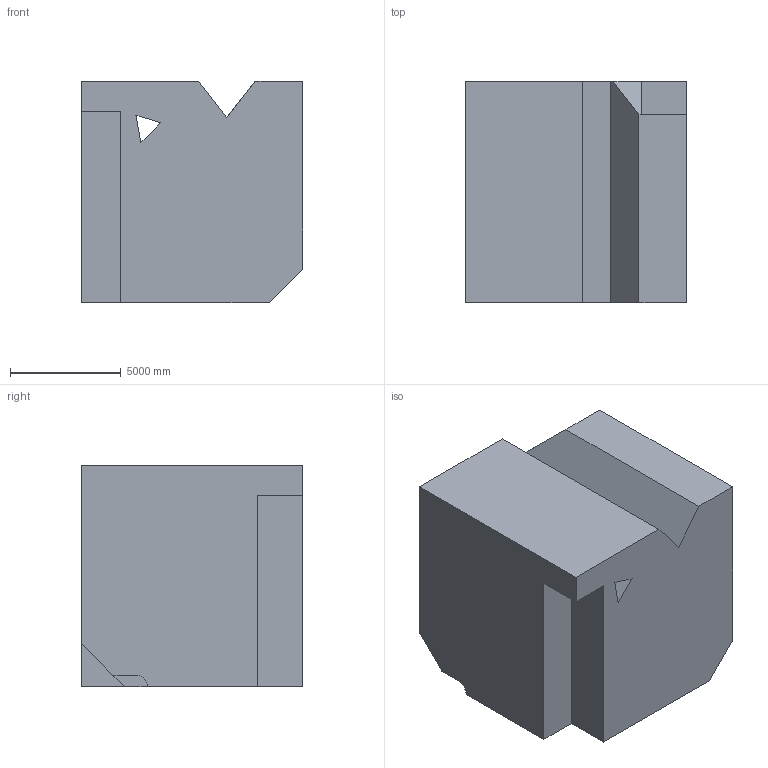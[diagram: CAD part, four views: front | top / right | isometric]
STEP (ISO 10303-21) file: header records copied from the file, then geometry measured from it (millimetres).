
FILE_DESCRIPTION (( 'STEP AP203' ), '1' );
FILE_NAME ('396.STEP', '2022-09-07T13:32:31', ( 'user' ), ( '' ), 'SwSTEP 2.0', 'SolidWorks 2021', '' );
FILE_SCHEMA (( 'CONFIG_CONTROL_DESIGN' ));
Length unit declared in the file: centimetre
Products named in the file (1): 396
Bounding box: 10000 x 10000 x 10000 mm (x, y, z)
Volume: 870463997567.3 mm3; surface area: 671378533.9 mm2
Topology: 1 solids, 1 shells, 36 faces, 98 edges, 65 vertices
Faces by surface type: plane 30, cylinder 6
Entity records: 1207 total; most frequent: CARTESIAN_POINT 200, ORIENTED_EDGE 196, DIRECTION 184, EDGE_CURVE 98, VECTOR 86, LINE 86, VERTEX_POINT 65, AXIS2_PLACEMENT_3D 49
